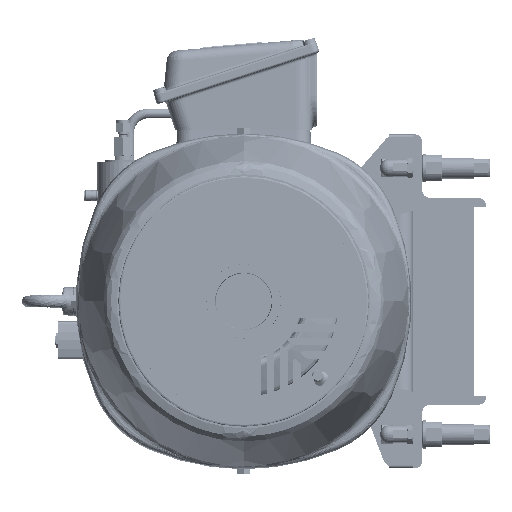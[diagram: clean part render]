
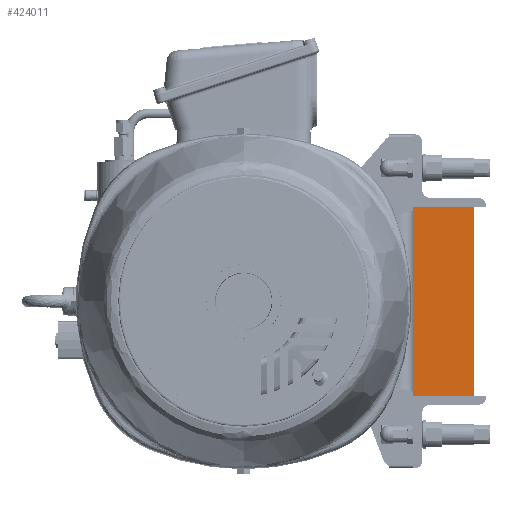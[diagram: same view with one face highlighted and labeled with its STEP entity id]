
A CAD part, left-side view. The second image highlights one B-rep face of the part: STEP entity #424011.
In plain terms, the highlighted planar face has unit normal (-1, 0, 0).
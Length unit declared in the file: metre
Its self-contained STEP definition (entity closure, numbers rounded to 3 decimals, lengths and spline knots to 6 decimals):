
#16170 = ORIENTED_EDGE ( 'NONE', *, *, #146942, .T. ) ;
#25176 = LINE ( 'NONE', #559698, #271263 ) ;
#33086 = CARTESIAN_POINT ( 'NONE',  ( -0.5461, 0., 0.099 ) ) ;
#83358 = DIRECTION ( 'NONE',  ( 0., 0., -1. ) ) ;
#146942 = EDGE_CURVE ( 'NONE', #226824, #368068, #25176, .T. ) ;
#148789 = VERTEX_POINT ( 'NONE', #832813 ) ;
#168022 = EDGE_CURVE ( 'NONE', #368068, #148789, #851797, .T. ) ;
#174069 = DIRECTION ( 'NONE',  ( 0., -1., 0. ) ) ;
#203066 = PLANE ( 'NONE',  #434845 ) ;
#205348 = VECTOR ( 'NONE', #174069, 1. ) ;
#226824 = VERTEX_POINT ( 'NONE', #33086 ) ;
#271263 = VECTOR ( 'NONE', #279424, 1. ) ;
#279424 = DIRECTION ( 'NONE',  ( 0., 0., -1. ) ) ;
#284009 = ORIENTED_EDGE ( 'NONE', *, *, #411811, .F. ) ;
#310482 = ORIENTED_EDGE ( 'NONE', *, *, #466529, .F. ) ;
#346428 = LINE ( 'NONE', #355203, #587128 ) ;
#355203 = CARTESIAN_POINT ( 'NONE',  ( -0.5461, -0.0635, 0.099 ) ) ;
#368068 = VERTEX_POINT ( 'NONE', #791515 ) ;
#378863 = CARTESIAN_POINT ( 'NONE',  ( -0.5461, 0., 0.099 ) ) ;
#394632 = FACE_OUTER_BOUND ( 'NONE', #811716, .T. ) ;
#403356 = DIRECTION ( 'NONE',  ( 1., 0., 0. ) ) ;
#405477 = VERTEX_POINT ( 'NONE', #591432 ) ;
#411150 = ORIENTED_EDGE ( 'NONE', *, *, #168022, .T. ) ;
#411811 = EDGE_CURVE ( 'NONE', #405477, #148789, #346428, .T. ) ;
#424011 = ADVANCED_FACE ( 'NONE', ( #394632 ), #203066, .F. ) ;
#434845 = AXIS2_PLACEMENT_3D ( 'NONE', #813217, #403356, #675159 ) ;
#455098 = CARTESIAN_POINT ( 'NONE',  ( -0.5461, 0., -0.099 ) ) ;
#466529 = EDGE_CURVE ( 'NONE', #226824, #405477, #583636, .T. ) ;
#559698 = CARTESIAN_POINT ( 'NONE',  ( -0.5461, 0., 0.099 ) ) ;
#583636 = LINE ( 'NONE', #378863, #205348 ) ;
#587128 = VECTOR ( 'NONE', #83358, 1. ) ;
#591432 = CARTESIAN_POINT ( 'NONE',  ( -0.5461, -0.0635, 0.099 ) ) ;
#635440 = VECTOR ( 'NONE', #726981, 1. ) ;
#675159 = DIRECTION ( 'NONE',  ( 0., 1., 0. ) ) ;
#726981 = DIRECTION ( 'NONE',  ( 0., -1., 0. ) ) ;
#791515 = CARTESIAN_POINT ( 'NONE',  ( -0.5461, 0., -0.099 ) ) ;
#811716 = EDGE_LOOP ( 'NONE', ( #411150, #284009, #310482, #16170 ) ) ;
#813217 = CARTESIAN_POINT ( 'NONE',  ( -0.5461, 0., 0.099 ) ) ;
#832813 = CARTESIAN_POINT ( 'NONE',  ( -0.5461, -0.0635, -0.099 ) ) ;
#851797 = LINE ( 'NONE', #455098, #635440 ) ;
